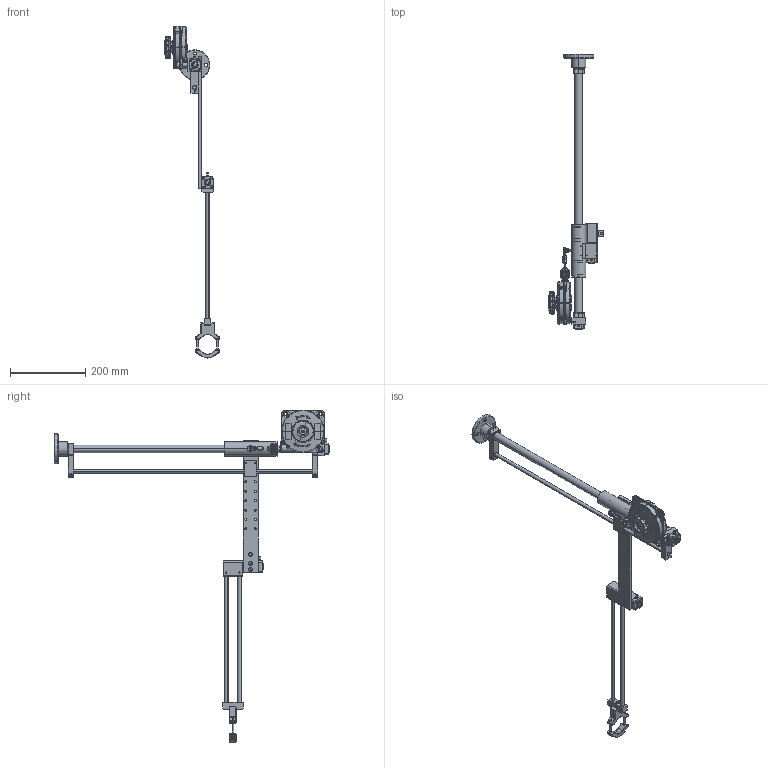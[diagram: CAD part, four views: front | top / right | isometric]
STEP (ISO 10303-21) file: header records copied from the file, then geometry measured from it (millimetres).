
FILE_DESCRIPTION (( 'STEP AP214' ), '1' );
FILE_NAME ('LINART TLS1.STEP', '2017-07-12T06:50:47', ( '' ), ( '' ), 'SwSTEP 2.0', 'SolidWorks 2017', '' );
FILE_SCHEMA (( 'AUTOMOTIVE_DESIGN' ));
Length unit declared in the file: millimetre
Products named in the file (1): LINART TLS1
Bounding box: 145.58 x 731.2 x 881.84 mm (x, y, z)
Volume: 990745.1 mm3; surface area: 399273.2 mm2
Topology: 74 solids, 74 shells, 4240 faces, 9902 edges, 5845 vertices
Faces by surface type: cylinder 996, plane 990, bspline 782, cone 616, torus 606, sphere 250
Entity records: 195775 total; most frequent: CARTESIAN_POINT 56855, ORIENTED_EDGE 19530, DIRECTION 18784, EDGE_CURVE 9765, AXIS2_PLACEMENT_3D 7876, VERTEX_POINT 5831, EDGE_LOOP 4614, CIRCLE 4417
